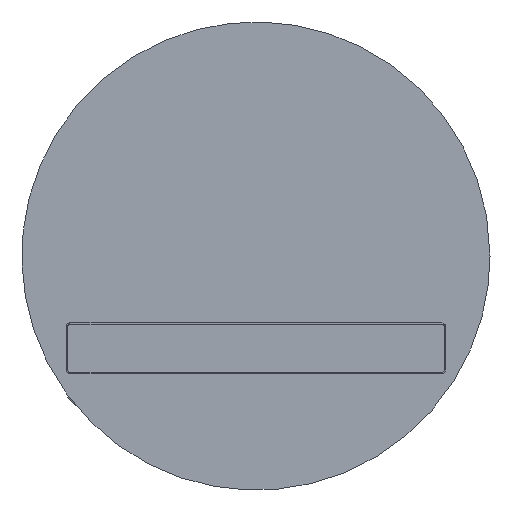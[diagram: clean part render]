
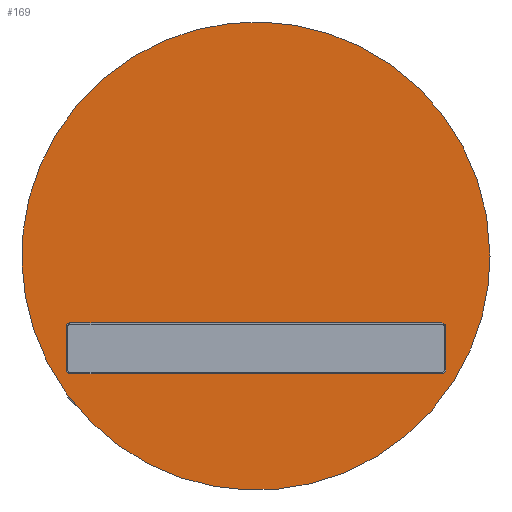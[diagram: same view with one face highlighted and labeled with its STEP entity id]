
A CAD part, top view. The second image highlights one B-rep face of the part: STEP entity #169.
In plain terms, the highlighted free-form (B-spline) face has degree [1, 1] with [2, 2] control points.
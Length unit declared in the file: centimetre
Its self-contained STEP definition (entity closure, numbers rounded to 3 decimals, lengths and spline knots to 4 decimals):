
#118 = CARTESIAN_POINT ('', (18.5, 0., 0.));
#119 = VERTEX_POINT ('', #118);
#125 = CARTESIAN_POINT ('', (18.5, 0., 0.));
#126 = CARTESIAN_POINT ('', (18.5, 18.5, 0.));
#127 = CARTESIAN_POINT ('', (0., 18.5, 0.));
#128 = CARTESIAN_POINT ('', (-18.5, 18.5, 0.));
#129 = CARTESIAN_POINT ('', (-18.5, 0., 0.));
#130 = CARTESIAN_POINT ('', (-18.5, -18.5, 0.));
#131 = CARTESIAN_POINT ('', (0., -18.5, 0.));
#132 = CARTESIAN_POINT ('', (18.5, -18.5, 0.));
#133 = CARTESIAN_POINT ('', (18.5, 0., 0.));
#134 = (
   BOUNDED_CURVE ()
   B_SPLINE_CURVE (2, (#125, #126, #127, #128, #129, #130, #131, #132, #133), .UNSPECIFIED., .T., .U.)
   B_SPLINE_CURVE_WITH_KNOTS ((3, 2, 2, 2, 3), (0., 0.25, 0.5, 0.75, 1.), .UNSPECIFIED.)
   CURVE ()
   GEOMETRIC_REPRESENTATION_ITEM ()
   RATIONAL_B_SPLINE_CURVE ((1., 0.707, 1., 0.707, 1., 0.707, 1., 0.707, 1.))
   REPRESENTATION_ITEM ('')
);
#135 = EDGE_CURVE ('', #119, #119, #134, .T.);
#161 = ORIENTED_EDGE ('', *, *, #135, .T.);
#162 = EDGE_LOOP ('', (#161));
#163 = FACE_OUTER_BOUND ('', #162, .T.);
#164 = CARTESIAN_POINT ('', (54.2784, -52.6312, 0.));
#165 = CARTESIAN_POINT ('', (-55.606, -52.6312, 0.));
#166 = CARTESIAN_POINT ('', (54.2784, 57.2532, 0.));
#167 = CARTESIAN_POINT ('', (-55.606, 57.2532, 0.));
#168 = B_SPLINE_SURFACE_WITH_KNOTS ('', 1, 1, ((#164, #165), (#166, #167)), .UNSPECIFIED., .F., .F., .U., (2, 2), (2, 2), (0., 1.), (0., 1.), .UNSPECIFIED.);
#169 = ADVANCED_FACE ('', (#163), #168, .T.);
